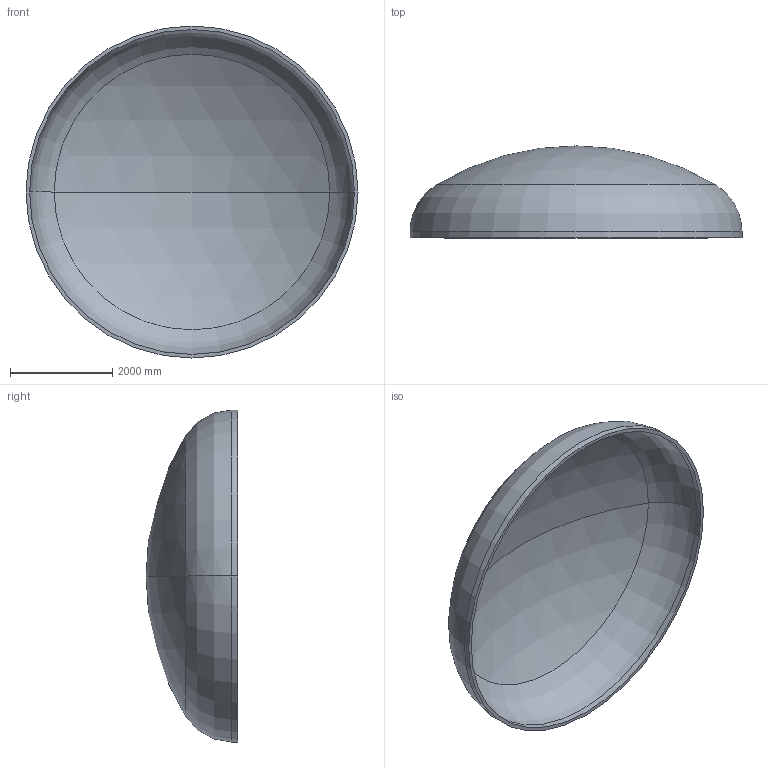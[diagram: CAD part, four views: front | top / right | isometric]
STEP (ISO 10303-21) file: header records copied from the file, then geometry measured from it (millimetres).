
FILE_DESCRIPTION (( 'STEP AP203' ), '1' );
FILE_NAME ('DIN 28013 Korbbogenform_-_Boden DIN 28013 - 6500 x 120 - I - s=70.step', '2016-07-04T10:43:02', ( '' ), ( '' ), 'SwSTEP 2.0', 'SolidWorks 2013', '' );
FILE_SCHEMA (( 'CONFIG_CONTROL_DESIGN' ));
Length unit declared in the file: millimetre
Products named in the file (1): DIN 28013 Korbbogenform_-_Boden DIN 28013 - 6500 x 120 - I - s=70
Bounding box: 6500 x 1800.07 x 6500 mm (x, y, z)
Volume: 3340635379.3 mm3; surface area: 96870982.1 mm2
Topology: 1 solids, 1 shells, 13 faces, 24 edges, 14 vertices
Faces by surface type: torus 4, cylinder 4, sphere 4, plane 1
Entity records: 407 total; most frequent: DIRECTION 72, CARTESIAN_POINT 52, ORIENTED_EDGE 48, AXIS2_PLACEMENT_3D 34, EDGE_CURVE 24, CIRCLE 20, VERTEX_POINT 14, EDGE_LOOP 14
